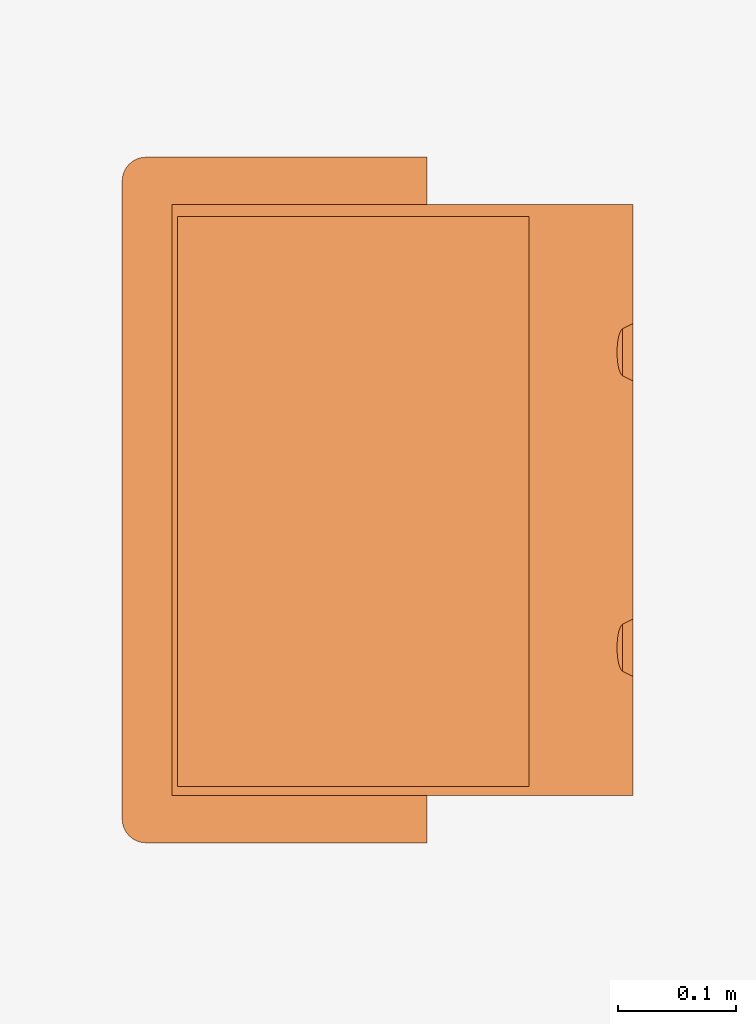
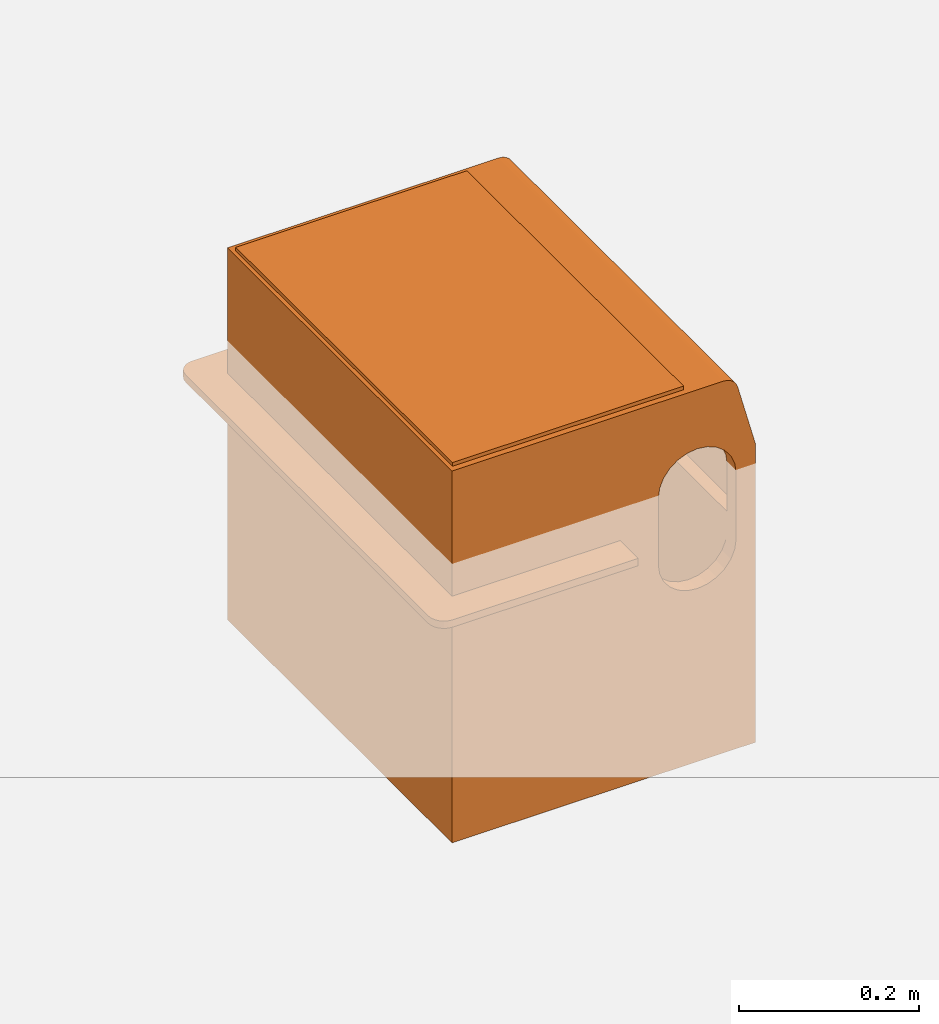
# One storey, part 2 of 2: 1 proxy.
"""IFC2X3 building model written with IfcOpenShell, lengths in millimetres."""

from ifc_helpers import new_model, entity, si_unit, converted_unit, direction, frame, origin, place, context, subcontext, project, spatial, faceted_brep, source, transform, mapped, material, material_list, element, save


model = new_model("IFC2X3")

# Units and contexts
model_context = context("Model", 3, precision=1e-06, world=origin(), true_north=direction((2.0, 6.12303176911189e-17, 1.0)))
context_of_model = context(None, 3, precision=1e-06, world=origin(), true_north=direction((2.0, 6.12303176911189e-17, 1.0)))
body_context = subcontext(model_context, "Body", "Model", "MODEL_VIEW")
ifc_project = project(units=[si_unit("LENGTHUNIT", "METRE", prefix="MILLI"), si_unit("AREAUNIT", "SQUARE_METRE", prefix="MILLI"), si_unit("VOLUMEUNIT", "CUBIC_METRE", prefix="MILLI"), converted_unit("PLANEANGLEUNIT", "DEGREE", entity("IfcRatioMeasure", 0.0174532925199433), si_unit("PLANEANGLEUNIT", "RADIAN"), dimensions=[0, 0, 0, 0, 0, 0, 0]), si_unit("TIMEUNIT", "SECOND")], contexts=[model_context, context_of_model])

# Site, building, storey
site_placement = place(None, origin())
site = spatial("IfcSite", under=ifc_project, at=site_placement, Name="Default", CompositionType="ELEMENT")
building_placement = place(site_placement, origin())
building = spatial("IfcBuilding", under=site, at=building_placement, CompositionType="ELEMENT")
storey_placement = place(building_placement, origin())
storey = spatial("IfcBuildingStorey", under=building, at=storey_placement, Name="Level 1", CompositionType="ELEMENT", Elevation=0.0)

# Proxy
ifc_material_1 = material(Name="Cast Iron")
ifc_material_2 = material(Name="ACO Polmer Concrete.")
ifc_material_3 = material(Name="Gully Colour")
ifc_material_list = material_list([ifc_material_1, ifc_material_2, ifc_material_3])
shared_shape = source(origin(), body_context, "Body", "Brep", [
    faceted_brep([(-195.0, 0.0, -55.0), (-217.0, 40.0, -55.0), (21.0, 40.0, -55.0), (21.0, 0.0, -55.0), (-227.0, 37.3205080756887, -55.0), (-222.176380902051, 39.3185165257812, -55.0), (-231.142135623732, 34.1421356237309, -55.0), (-237.0, 20.0, -55.0), (-236.318516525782, 25.1763809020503, -55.0), (-234.320508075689, 30.0, -55.0), (-237.0, -520.0, -55.0), (-195.0, -500.0, -55.0), (21.0, -500.0, -55.0), (21.0, -540.0, -55.0), (-217.0, -540.0, -55.0), (-222.17638090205, -539.318516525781, -55.0), (-227.0, -537.320508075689, -55.0), (-231.142135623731, -534.142135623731, -55.0), (-236.318516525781, -525.176380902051, -55.0), (-234.320508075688, -530.0, -55.0), (-195.0, -500.0, -45.0155898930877), (-217.0, -540.0, -45.0155898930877), (21.0, -540.0, -45.0155898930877), (21.0, -500.0, -45.0155898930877), (-227.0, -537.320508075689, -45.0155898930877), (-222.17638090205, -539.318516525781, -45.0155898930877), (-231.142135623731, -534.142135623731, -45.0155898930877), (-237.0, -520.0, -45.0155898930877), (-236.318516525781, -525.176380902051, -45.0155898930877), (-234.320508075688, -530.0, -45.0155898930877), (-237.0, 20.0, -45.0155898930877), (-195.0, 0.0, -45.0155898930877), (21.0, 0.0, -45.0155898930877), (21.0, 40.0, -45.0155898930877), (-217.0, 40.0, -45.0155898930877), (-222.176380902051, 39.3185165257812, -45.0155898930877), (-227.0, 37.3205080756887, -45.0155898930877), (-231.142135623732, 34.1421356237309, -45.0155898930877), (-236.318516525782, 25.1763809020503, -45.0155898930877), (-234.320508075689, 30.0, -45.0155898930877)], [[[0, 1, 2, 3]], [[4, 5, 1, 6]], [[1, 0, 7, 8]], [[9, 6, 1, 8]], [[10, 7, 0, 11]], [[11, 12, 13]], [[14, 10, 11, 13]], [[14, 15, 16, 17]], [[10, 14, 18]], [[14, 17, 19, 18]], [[20, 21, 22, 23]], [[24, 25, 21, 26]], [[21, 20, 27, 28]], [[29, 26, 21, 28]], [[30, 27, 20, 31]], [[31, 32, 33]], [[34, 30, 31, 33]], [[34, 35, 36, 37]], [[30, 34, 38]], [[34, 37, 39, 38]], [[13, 22, 21, 14]], [[10, 27, 30, 7]], [[1, 34, 33, 2]], [[33, 32, 3, 2]], [[3, 32, 31, 0]], [[31, 20, 11, 0]], [[11, 20, 23, 12]], [[23, 22, 13, 12]], [[10, 18, 28, 27]], [[18, 19, 29, 28]], [[26, 29, 19, 17]], [[17, 16, 24, 26]], [[16, 15, 25, 24]], [[21, 25, 15, 14]], [[1, 5, 35, 34]], [[5, 4, 36, 35]], [[37, 36, 4, 6]], [[6, 9, 39, 37]], [[9, 8, 38, 39]], [[30, 38, 8, 7]]]),
    faceted_brep([(107.0, -10.0, 130.0), (-190.0, -10.0, 130.0), (-190.0, -492.194385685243, 130.0), (107.0, -492.194385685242, 130.0), (107.0, -492.194385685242, 125.0), (-190.0, -492.194385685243, 125.0), (-190.0, -10.0, 125.0), (107.0, -10.0, 125.0)], [[[0, 1, 2, 3]], [[4, 5, 6, 7]], [[2, 1, 6, 5]], [[4, 3, 2, 5]], [[0, 3, 4, 7]], [[6, 1, 0, 7]]]),
    faceted_brep([(143.500000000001, -480.0, -395.0), (130.0, -380.913437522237, -395.0), (130.0, -119.086562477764, -395.0), (143.499999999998, -20.0, -395.0), (90.7286561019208, -406.596560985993, -395.0), (46.6095382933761, -422.576696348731, -395.0), (0.0, -428.0, -395.0), (-143.499999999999, -480.0, -395.0), (90.7286561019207, -93.4034390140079, -395.0), (46.6095382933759, -77.4233036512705, -395.0), (0.0, -72.0, -395.0), (-143.500000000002, -20.0, -395.0), (-46.6095382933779, -422.576696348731, -395.0), (-90.7286561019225, -406.596560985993, -395.0), (-130.0, -380.913437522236, -395.0), (-46.6095382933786, -77.4233036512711, -395.0), (-90.7286561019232, -93.4034390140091, -395.0), (-130.0, -119.086562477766, -395.0), (-143.499999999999, -480.0, -374.697410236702), (-90.7286561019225, -406.596560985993, -374.697410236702), (-130.0, -380.913437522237, -374.697410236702), (-46.6095382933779, -422.576696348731, -374.697410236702), (0.0, -428.0, -374.697410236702), (143.500000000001, -480.0, -374.697410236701), (-143.500000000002, -20.0, -374.697410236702), (-130.0, -119.086562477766, -374.697410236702), (-90.7286561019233, -93.4034390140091, -374.697410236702), (-46.6095382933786, -77.4233036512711, -374.697410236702), (0.0, -72.0, -374.697410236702), (90.7286561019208, -406.596560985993, -374.697410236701), (46.6095382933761, -422.576696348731, -374.697410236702), (130.0, -119.086562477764, -374.697410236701), (130.0, -380.913437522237, -374.697410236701), (143.499999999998, -20.0, -374.697410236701), (46.6095382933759, -77.4233036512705, -374.697410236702), (90.7286561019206, -93.4034390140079, -374.697410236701)], [[[0, 1, 2, 3]], [[1, 0, 4]], [[5, 4, 0]], [[6, 5, 0, 7]], [[3, 2, 8]], [[3, 9, 10, 11]], [[8, 9, 3]], [[12, 6, 7]], [[13, 7, 14]], [[7, 13, 12]], [[15, 16, 11]], [[17, 14, 7, 11]], [[17, 11, 16]], [[15, 11, 10]], [[18, 19, 20]], [[19, 18, 21]], [[22, 21, 18, 23]], [[24, 25, 26]], [[25, 24, 18, 20]], [[26, 27, 24]], [[24, 27, 28]], [[29, 30, 23]], [[31, 32, 23, 33]], [[23, 32, 29]], [[30, 22, 23]], [[28, 34, 33, 24]], [[35, 31, 33]], [[35, 33, 34]], [[0, 3, 33, 23]], [[3, 11, 24, 33]], [[11, 7, 18, 24]], [[7, 0, 23, 18]], [[8, 2, 31, 35]], [[9, 8, 35, 34]], [[34, 28, 10, 9]], [[16, 15, 27, 26]], [[17, 16, 26, 25]], [[28, 27, 15, 10]], [[20, 14, 17, 25]], [[13, 14, 20, 19]], [[12, 13, 19, 21]], [[21, 22, 6, 12]], [[4, 5, 30, 29]], [[32, 1, 4, 29]], [[22, 30, 5, 6]], [[31, 2, 1, 32]]]),
    faceted_brep([(70.0, -480.0, -95.0), (70.0, -480.0, -70.0), (70.0, -500.0, -70.0), (70.0, -500.0, -95.0), (71.703708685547, -480.0, -107.940952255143), (71.7037086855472, -500.0, -107.940952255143), (76.6987298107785, -480.0, -120.0), (76.6987298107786, -500.0, -120.0), (95.0, -480.0, -138.301270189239), (84.6446609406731, -480.0, -130.355339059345), (84.6446609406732, -500.0, -130.355339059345), (95.0, -500.0, -138.301270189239), (107.059047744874, -480.0, -143.29629131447), (107.059047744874, -500.0, -143.29629131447), (120.0, -500.0, -145.0), (120.0, -480.0, -145.0), (145.0, -480.0, -138.301270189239), (132.940952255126, -480.0, -143.296291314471), (132.940952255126, -500.0, -143.296291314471), (145.0, -500.0, -138.301270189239), (155.355339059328, -480.0, -130.355339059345), (155.355339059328, -500.0, -130.355339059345), (168.296291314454, -480.0, -107.940952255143), (163.301270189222, -480.0, -120.0), (163.301270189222, -500.0, -120.0), (168.296291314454, -500.0, -107.940952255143), (170.0, -480.0, -95.0), (170.0, -500.0, -95.0), (195.0, 0.0, -380.0), (155.355339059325, 0.0, -130.355339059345), (163.30127018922, 0.0, -120.0), (145.0, 0.0, -138.301270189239), (132.940952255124, 0.0, -143.296291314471), (120.0, 0.0, -145.0), (170.0, 0.0, -70.0), (195.0, 0.0, -70.0), (170.0, 0.0, -95.0), (168.296291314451, 0.0, -107.940952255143), (107.059047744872, 0.0, -143.29629131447), (-195.0, 0.0, -380.0), (84.6446609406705, 0.0, -130.355339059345), (95.0, 0.0, -138.301270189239), (76.6987298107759, 0.0, -120.0), (-195.0, 0.0, -70.0), (71.7037086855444, 0.0, -107.940952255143), (70.0, 0.0, -70.0), (70.0, 0.0, -95.0), (-195.0, -500.0, -380.0), (195.0, -500.0, -380.0), (-195.0, -500.0, -70.0), (195.0, -500.0, -70.0), (170.0, -500.0, -70.0), (130.0, -20.0, -380.0), (-130.0, -20.0, -380.0), (130.0, -480.0, -380.0), (-130.0, -480.0, -380.0), (-170.0, -20.0, -70.0), (70.0, -20.0, -70.0), (-170.0, -480.0, -70.0), (70.0, -20.0, -95.0), (71.7037086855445, -20.0, -107.940952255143), (76.698729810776, -20.0, -120.0), (95.0, -20.0, -138.301270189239), (107.059047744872, -20.0, -143.29629131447), (84.6446609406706, -20.0, -130.355339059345), (120.0, -20.0, -145.0), (145.0, -20.0, -138.301270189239), (155.355339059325, -20.0, -130.355339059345), (132.940952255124, -20.0, -143.296291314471), (168.296291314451, -20.0, -107.940952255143), (170.0, -20.0, -95.0), (163.30127018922, -20.0, -120.0), (170.0, -20.0, -374.697410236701), (170.0, -480.0, -374.697410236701), (130.0, -480.0, -374.697410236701), (-130.0, -480.0, -374.697410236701), (-170.0, -480.0, -374.697410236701), (-130.0, -20.0, -374.697410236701), (130.0, -20.0, -374.697410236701), (-170.0, -20.0, -374.697410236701)], [[[0, 1, 2, 3]], [[4, 0, 3, 5]], [[6, 4, 5, 7]], [[8, 9, 10, 11]], [[9, 6, 7, 10]], [[12, 8, 11, 13]], [[13, 14, 15, 12]], [[16, 17, 18, 19]], [[20, 16, 19, 21]], [[22, 23, 24, 25]], [[23, 20, 21, 24]], [[26, 22, 25, 27]], [[14, 18, 17, 15]], [[28, 29, 30]], [[29, 28, 31]], [[32, 31, 28]], [[28, 33, 32]], [[34, 35, 36]], [[37, 36, 35]], [[30, 37, 35, 28]], [[33, 28, 38]], [[39, 40, 41, 28]], [[41, 38, 28]], [[42, 40, 39, 43]], [[44, 42, 43]], [[45, 46, 43]], [[43, 46, 44]], [[47, 10, 7]], [[11, 10, 47, 48]], [[48, 13, 11]], [[49, 3, 2]], [[3, 49, 5]], [[7, 5, 49, 47]], [[18, 14, 48]], [[19, 48, 21]], [[48, 19, 18]], [[21, 48, 24]], [[14, 13, 48]], [[50, 25, 24, 48]], [[27, 50, 51]], [[50, 27, 25]], [[28, 52, 53, 39]], [[54, 52, 28, 48]], [[39, 53, 55, 47]], [[55, 54, 48, 47]], [[43, 39, 47, 49]], [[45, 43, 56, 57]], [[58, 56, 43, 49]], [[58, 49, 2, 1]], [[28, 35, 50, 48]], [[46, 45, 57, 59]], [[42, 44, 60, 61]], [[44, 46, 59, 60]], [[38, 41, 62, 63]], [[41, 40, 64, 62]], [[40, 42, 61, 64]], [[63, 65, 33, 38]], [[29, 31, 66, 67]], [[31, 32, 68, 66]], [[36, 37, 69, 70]], [[37, 30, 71, 69]], [[30, 29, 67, 71]], [[65, 68, 32, 33]], [[70, 72, 73, 26]], [[34, 36, 70, 26]], [[26, 27, 51, 34]], [[35, 34, 51, 50]], [[74, 15, 17, 73]], [[74, 54, 75, 8]], [[17, 16, 73]], [[15, 74, 12]], [[54, 55, 75]], [[75, 76, 58, 6]], [[74, 8, 12]], [[8, 75, 9]], [[73, 16, 20]], [[73, 23, 22]], [[73, 22, 26]], [[23, 73, 20]], [[58, 4, 6]], [[58, 1, 0]], [[4, 58, 0]], [[9, 75, 6]], [[72, 70, 69]], [[72, 71, 67]], [[71, 72, 69]], [[59, 57, 56]], [[61, 60, 56, 77]], [[56, 60, 59]], [[77, 64, 61]], [[72, 66, 68, 78]], [[52, 78, 77, 53]], [[72, 67, 66]], [[65, 78, 68]], [[63, 78, 65]], [[78, 63, 62, 77]], [[77, 56, 79]], [[62, 64, 77]], [[56, 58, 76, 79]], [[76, 75, 77, 79]], [[77, 75, 55, 53]], [[52, 54, 74, 78]], [[78, 74, 73, 72]]]),
    faceted_brep([(170.0, -480.0, -5.0), (170.0, -480.0, -70.0), (170.0, -500.0, -70.0), (170.0, -500.0, -5.0), (168.296291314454, -480.0, 7.94095225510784), (168.296291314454, -500.0, 7.94095225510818), (163.301270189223, -480.0, 20.0), (163.301270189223, -500.0, 20.0), (145.0, -480.0, 38.3012701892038), (155.355339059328, -480.0, 30.3553390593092), (155.355339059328, -500.0, 30.3553390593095), (145.0, -500.0, 38.3012701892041), (132.940952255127, -480.0, 43.2962913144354), (132.940952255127, -500.0, 43.2962913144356), (120.0, -500.0, 45.0), (120.0, -480.0, 45.0), (95.0, -480.0, 38.3012701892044), (107.059047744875, -480.0, 43.2962913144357), (107.059047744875, -500.0, 43.2962913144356), (95.0, -500.0, 38.3012701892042), (84.6446609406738, -480.0, 30.35533905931), (84.6446609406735, -500.0, 30.3553390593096), (71.7037086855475, -480.0, 7.94095225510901), (76.6987298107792, -480.0, 20.0), (76.6987298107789, -500.0, 20.0), (71.7037086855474, -500.0, 7.94095225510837), (70.0, -480.0, -5.0), (70.0, -500.0, -5.0), (70.0, -480.0, -70.0), (70.0, -500.0, -70.0), (170.0, 0.0, -5.0), (195.0, 0.0, 25.0), (195.0, 0.0, -70.0), (170.0, 0.0, -70.0), (168.296291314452, 0.0, 7.9409522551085), (163.30127018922, 0.0, 20.0), (155.355339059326, 0.0, 30.3553390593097), (167.060896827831, 0.0, 119.435028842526), (170.08035065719, 0.0, 115.499999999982), (171.978458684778, 0.0, 110.91756185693), (163.125867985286, 0.0, 122.454482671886), (153.625867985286, 0.0, 125.0), (158.543429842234, 0.0, 124.352590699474), (132.940952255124, 0.0, 43.2962913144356), (145.0, 0.0, 38.3012701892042), (-195.0, 0.0, 125.0), (76.6987298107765, 0.0, 20.0), (71.7037086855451, 0.0, 7.94095225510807), (-195.0, 0.0, -45.0155898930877), (70.0, 0.0, -70.0), (-195.0, 0.0, -55.0), (70.0, 0.0, -5.0), (-195.0, 0.0, -70.0), (107.059047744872, 0.0, 43.2962913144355), (120.0, 0.0, 45.0), (95.0, 0.0, 38.301270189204), (84.644660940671, 0.0, 30.3553390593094), (-195.0, -500.0, -55.0), (-195.0, -500.0, -70.0), (-195.0, -500.0, -45.0155898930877), (-195.0, -500.0, 125.0), (153.625867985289, -500.0, 125.0), (171.978458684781, -500.0, 110.91756185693), (195.0, -500.0, 25.0), (195.0, -500.0, -70.0), (158.543429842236, -500.0, 124.352590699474), (163.125867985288, -500.0, 122.454482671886), (170.080350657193, -500.0, 115.499999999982), (167.060896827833, -500.0, 119.435028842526), (186.324086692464, -20.0, -70.0), (170.0, -20.0, -70.0), (186.324086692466, -480.0, -70.0), (70.0, -20.0, -70.0), (-185.0, -20.0, -70.0), (-185.0, -480.0, -70.0), (153.625867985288, -347.800114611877, 125.0), (195.0, -100.682801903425, 25.0), (195.0, -100.0, 20.0335195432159), (195.0, -100.851854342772, 13.5630434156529), (195.0, -103.349364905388, 7.53351954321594), (195.0, -150.0, 20.0335195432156), (195.0, -149.317198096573, 25.0), (195.0, -350.682801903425, 25.0), (195.0, -350.0, 20.0335195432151), (195.0, -149.148145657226, 13.5630434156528), (195.0, -350.851854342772, 13.5630434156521), (195.0, -107.322330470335, 2.35585001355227), (195.0, -112.499999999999, -1.61711555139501), (195.0, -118.529523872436, -4.11462611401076), (195.0, -125.0, -4.96648045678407), (195.0, -142.677669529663, 2.35585001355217), (195.0, -146.65063509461, 7.53351954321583), (195.0, -357.322330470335, 2.35585001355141), (195.0, -362.499999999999, -1.61711555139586), (195.0, -131.470476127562, -4.1146261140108), (195.0, -137.499999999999, -1.61711555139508), (195.0, -368.529523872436, -4.11462611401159), (195.0, -353.349364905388, 7.53351954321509), (195.0, -399.317198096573, 25.0), (195.0, -400.0, 20.0335195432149), (195.0, -399.148145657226, 13.5630434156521), (195.0, -396.65063509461, 7.5335195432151), (195.0, -387.499999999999, -1.61711555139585), (195.0, -392.677669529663, 2.35585001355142), (195.0, -375.0, -4.96648045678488), (195.0, -381.470476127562, -4.11462611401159), (170.0, -20.0, -5.0), (168.296291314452, -20.0, 7.94095225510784), (163.301270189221, -20.0, 20.0), (155.355339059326, -20.0, 30.3553390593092), (145.0, -20.0, 38.3012701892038), (132.940952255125, -20.0, 43.2962913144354), (120.0, -20.0, 45.0), (107.059047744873, -20.0, 43.2962913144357), (95.0, -20.0, 38.3012701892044), (84.6446609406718, -20.0, 30.3553390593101), (76.6987298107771, -20.0, 20.0), (71.7037086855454, -20.0, 7.94095225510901), (70.0, -20.0, -5.0), (186.324086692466, -480.0, 20.0), (164.177796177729, -480.0, 102.651081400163), (-185.0, -480.0, 116.733519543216), (159.260234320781, -480.0, 111.168548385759), (162.279688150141, -480.0, 107.233519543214), (155.325205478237, -480.0, 114.188002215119), (145.825205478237, -480.0, 116.733519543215), (150.742767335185, -480.0, 116.086110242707), (150.742767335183, -20.0, 116.086110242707), (145.825205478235, -20.0, 116.733519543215), (164.177796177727, -20.0, 102.651081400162), (155.325205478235, -20.0, 114.188002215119), (162.279688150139, -20.0, 107.233519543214), (159.260234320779, -20.0, 111.168548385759), (-185.0, -20.0, 116.733519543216), (186.324086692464, -20.0, 20.0), (145.825205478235, -175.60028072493, 116.733519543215), (186.324086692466, -387.490322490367, -1.62269998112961), (186.324086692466, -381.465079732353, -4.11607142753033), (186.324086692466, -375.0, -4.96648045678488), (186.324086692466, -392.665814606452, 2.34400303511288), (186.324086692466, -368.534920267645, -4.11607142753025), (186.324086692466, -362.509677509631, -1.62269998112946), (186.324086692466, -357.334185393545, 2.34400303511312), (186.324086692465, -137.490324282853, -1.62269894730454), (186.324086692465, -131.465080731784, -4.11607115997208), (186.324086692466, -399.140901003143, 13.5360662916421), (186.324086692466, -396.6394532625, 7.51417201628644), (186.324086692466, -399.999977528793, 20.0), (186.324086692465, -149.140902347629, 13.5360712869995), (186.324086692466, -350.859098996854, 13.5360662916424), (186.324086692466, -350.000022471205, 20.0), (186.324086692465, -149.999977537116, 20.0000062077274), (186.324086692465, -146.639455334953, 7.51417559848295), (186.324086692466, -353.360546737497, 7.51417201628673), (186.324086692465, -142.665816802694, 2.34400522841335), (186.324086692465, -118.534919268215, -4.11607115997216), (186.324086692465, -125.0, -4.96648045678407), (186.324086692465, -112.509675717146, -1.6226989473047), (186.324086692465, -107.334183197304, 2.34400522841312), (186.324086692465, -103.360544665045, 7.51417559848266), (186.324086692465, -100.859097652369, 13.5360712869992), (186.324086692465, -99.9953916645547, 20.0), (181.74592304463, -120.26482351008, 74.4648886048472), (182.194351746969, -115.798903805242, 72.7913299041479), (181.593558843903, -125.0, 75.0335195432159), (182.913345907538, -111.856186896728, 70.1080071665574), (183.862021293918, -108.66086786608, 66.567502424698), (181.74592304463, -129.735176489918, 74.4648886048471), (181.745923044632, -370.26482351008, 74.4648886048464), (182.913345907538, -138.143813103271, 70.108007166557), (182.194351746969, -134.201096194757, 72.7913299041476), (182.19435174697, -365.798903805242, 72.7913299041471), (182.913345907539, -361.856186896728, 70.1080071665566), (186.222644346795, -105.186375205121, 57.7575372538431), (184.986433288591, -106.394642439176, 62.3711397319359), (186.222644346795, -144.813624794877, 57.7575372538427), (184.986433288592, -143.605357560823, 62.3711397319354), (184.986433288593, -356.394642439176, 62.3711397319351), (186.222644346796, -355.186375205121, 57.7575372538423), (183.862021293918, -141.339132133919, 66.5675024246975), (183.862021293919, -358.66086786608, 66.5675024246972), (181.593558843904, -375.0, 75.0335195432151), (181.745923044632, -379.735176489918, 74.4648886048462), (182.19435174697, -384.201096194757, 72.7913299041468), (182.91334590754, -388.143813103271, 70.1080071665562), (183.862021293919, -391.339132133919, 66.5675024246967), (171.978458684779, -152.20011621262, 110.91756185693), (171.97845868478, -304.399889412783, 110.91756185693), (184.986433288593, -393.605357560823, 62.3711397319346), (186.222644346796, -394.813624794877, 57.7575372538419), (176.206985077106, -394.813624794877, 57.757537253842), (174.970774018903, -393.605357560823, 62.3711397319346), (176.206985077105, -144.813624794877, 57.7575372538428), (176.206985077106, -355.186375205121, 57.7575372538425), (174.970774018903, -356.394642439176, 62.3711397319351), (173.846362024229, -358.66086786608, 66.5675024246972), (173.846362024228, -141.339132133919, 66.5675024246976), (174.970774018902, -143.605357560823, 62.3711397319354), (172.897686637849, -388.143813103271, 70.1080071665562), (173.846362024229, -391.339132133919, 66.5675024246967), (171.730263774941, -379.735176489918, 74.4648886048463), (172.17869247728, -384.201096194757, 72.7913299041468), (172.897686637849, -361.856186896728, 70.1080071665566), (172.17869247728, -365.798903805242, 72.7913299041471), (172.178692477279, -134.201096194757, 72.7913299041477), (172.897686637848, -138.143813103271, 70.108007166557), (171.730263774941, -370.26482351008, 74.4648886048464), (171.577899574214, -375.0, 75.0335195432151), (171.73026377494, -129.735176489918, 74.4648886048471), (176.206985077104, -105.186375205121, 57.7575372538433), (174.970774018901, -106.394642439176, 62.3711397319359), (171.577899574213, -125.0, 75.0335195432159), (164.177796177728, -172.199873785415, 102.651081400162), (173.846362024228, -108.66086786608, 66.567502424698), (172.897686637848, -111.856186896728, 70.1080071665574), (172.178692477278, -115.798903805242, 72.7913299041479), (171.73026377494, -120.26482351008, 74.4648886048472), (164.177796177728, -324.399745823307, 102.651081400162), (153.096190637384, -336.278614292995, 115.287230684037), (157.391672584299, -374.573795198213, 112.807233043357), (162.808687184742, -248.299812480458, 106.251814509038), (160.898918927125, -163.721386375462, 109.299986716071), (160.89891888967, -336.278618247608, 109.299986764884), (157.39167262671, -250.0, 112.807233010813), (157.391672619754, -125.42620528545, 112.80723301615), (162.897138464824, -123.379587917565, 106.07313009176), (153.096190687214, -163.721384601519, 115.287230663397), (162.910928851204, -376.232668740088, 106.044840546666), (149.657597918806, -251.700195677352, 116.343000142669), (149.46210924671, -376.620415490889, 116.382190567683), (145.825205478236, -327.800140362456, 116.733519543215), (149.431214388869, -123.767333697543, 116.388189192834), (160.89685323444, -151.423673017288, 123.553711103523), (157.024911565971, -135.85009765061, 124.693488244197), (157.644410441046, -261.028899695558, 124.570172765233), (165.192335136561, -250.0, 121.073713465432), (165.1923351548, -116.192108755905, 121.073713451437), (161.914008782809, -250.0, 123.096979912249), (165.192335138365, -383.80789127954, 121.073713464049), (168.699581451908, -348.57632636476, 117.566467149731), (170.802653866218, -364.149901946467, 114.121454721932), (170.523202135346, -238.971100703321, 114.687928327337), (153.625867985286, -76.0999426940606, 125.0), (160.896853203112, -348.576326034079, 123.5537111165), (171.97845868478, -423.900284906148, 110.91756185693), (167.995153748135, -250.0, 118.430753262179), (157.325857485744, -395.124364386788, 124.636257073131), (153.625867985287, -195.600229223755, 125.0), (168.699581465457, -151.42367418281, 117.566467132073), (170.669482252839, -104.875635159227, 114.397333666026)], [[[0, 1, 2, 3]], [[4, 0, 3, 5]], [[6, 4, 5, 7]], [[8, 9, 10, 11]], [[9, 6, 7, 10]], [[12, 8, 11, 13]], [[13, 14, 15, 12]], [[16, 17, 18, 19]], [[20, 16, 19, 21]], [[22, 23, 24, 25]], [[23, 20, 21, 24]], [[26, 22, 25, 27]], [[14, 18, 17, 15]], [[28, 26, 27, 29]], [[30, 31, 32, 33]], [[34, 35, 31]], [[30, 34, 31]], [[31, 35, 36]], [[37, 38, 39, 40]], [[41, 42, 39, 43]], [[42, 40, 39]], [[36, 44, 39, 31]], [[45, 46, 47, 48]], [[49, 50, 48, 51]], [[51, 48, 47]], [[50, 49, 52]], [[53, 41, 54]], [[44, 43, 39]], [[55, 56, 45]], [[41, 53, 55, 45]], [[56, 46, 45]], [[54, 41, 43]], [[57, 58, 29, 59]], [[29, 27, 59]], [[59, 27, 25, 60]], [[60, 24, 21]], [[24, 60, 25]], [[60, 21, 19, 61]], [[61, 18, 14]], [[61, 19, 18]], [[61, 14, 13, 62]], [[7, 5, 63]], [[10, 7, 63, 62]], [[2, 64, 3]], [[63, 5, 3, 64]], [[65, 61, 62, 66]], [[62, 13, 11]], [[62, 67, 68, 66]], [[11, 10, 62]], [[33, 32, 69, 70]], [[69, 32, 64, 71]], [[71, 64, 2, 1]], [[49, 72, 73, 52]], [[52, 73, 74, 58]], [[74, 28, 29, 58]], [[50, 52, 58, 57]], [[60, 45, 48, 59]], [[48, 50, 57, 59]], [[61, 75, 45, 60]], [[31, 76, 77]], [[77, 78, 31]], [[31, 78, 79, 32]], [[80, 81, 82, 83]], [[84, 80, 83, 85]], [[86, 87, 32]], [[32, 88, 89]], [[88, 32, 87]], [[86, 32, 79]], [[90, 91, 92, 93]], [[94, 64, 32, 89]], [[95, 90, 93, 96]], [[94, 95, 96, 64]], [[91, 84, 97, 92]], [[98, 63, 99]], [[100, 99, 63]], [[101, 100, 63, 64]], [[102, 103, 64]], [[104, 105, 64]], [[64, 105, 102]], [[104, 64, 96]], [[103, 101, 64]], [[85, 97, 84]], [[106, 30, 33, 70]], [[34, 30, 106, 107]], [[35, 34, 107, 108]], [[44, 36, 109, 110]], [[36, 35, 108, 109]], [[43, 44, 110, 111]], [[111, 112, 54, 43]], [[55, 53, 113, 114]], [[56, 55, 114, 115]], [[47, 46, 116, 117]], [[46, 56, 115, 116]], [[51, 47, 117, 118]], [[112, 113, 53, 54]], [[49, 51, 118, 72]], [[0, 4, 119, 71]], [[0, 71, 1]], [[6, 9, 119]], [[9, 8, 120, 119]], [[4, 6, 119]], [[74, 26, 28]], [[74, 121, 22, 26]], [[122, 123, 120, 124]], [[120, 125, 126, 124]], [[125, 120, 12, 15]], [[20, 23, 121, 125]], [[17, 125, 15]], [[16, 20, 125]], [[125, 17, 16]], [[22, 121, 23]], [[8, 12, 120]], [[127, 128, 129, 130]], [[129, 131, 132, 130]], [[111, 129, 128, 112]], [[115, 114, 128, 133]], [[114, 113, 128]], [[112, 128, 113]], [[116, 115, 133]], [[111, 110, 129]], [[109, 108, 134, 129]], [[129, 110, 109]], [[107, 134, 108]], [[134, 107, 106, 69]], [[69, 106, 70]], [[117, 133, 73, 118]], [[118, 73, 72]], [[116, 133, 117]], [[128, 135, 121, 133]], [[133, 121, 74, 73]], [[136, 137, 71]], [[138, 71, 137]], [[139, 136, 71]], [[71, 138, 140]], [[141, 142, 143, 144]], [[140, 141, 144, 71]], [[119, 145, 146, 71]], [[145, 119, 147]], [[148, 149, 150, 151]], [[152, 153, 149, 148]], [[146, 139, 71]], [[142, 153, 154, 143]], [[155, 69, 156]], [[144, 156, 69, 71]], [[69, 155, 157]], [[157, 158, 69]], [[159, 160, 134, 69]], [[160, 161, 134]], [[159, 69, 158]], [[153, 152, 154]], [[83, 150, 85]], [[85, 149, 97]], [[93, 92, 142]], [[153, 92, 97]], [[96, 93, 141]], [[149, 153, 97]], [[85, 150, 149]], [[96, 141, 140]], [[141, 93, 142]], [[92, 153, 142]], [[140, 138, 104]], [[104, 96, 140]], [[104, 137, 105]], [[105, 136, 102]], [[101, 103, 146]], [[139, 103, 102]], [[100, 101, 145]], [[136, 139, 102]], [[105, 137, 136]], [[100, 145, 147]], [[145, 101, 146]], [[103, 139, 146]], [[100, 147, 99]], [[138, 137, 104]], [[39, 162, 163]], [[162, 39, 164]], [[163, 165, 39]], [[39, 165, 166]], [[167, 164, 39, 168]], [[169, 170, 171, 172]], [[170, 167, 168, 171]], [[31, 39, 173, 76]], [[39, 174, 173]], [[175, 176, 177, 178]], [[82, 81, 175, 178]], [[176, 179, 180, 177]], [[39, 166, 174]], [[179, 169, 172, 180]], [[181, 168, 62]], [[182, 62, 183]], [[62, 182, 181]], [[184, 183, 62]], [[62, 185, 184]], [[168, 39, 186, 187]], [[185, 62, 188]], [[63, 98, 189, 62]], [[189, 188, 62]], [[190, 147, 119, 120]], [[191, 190, 120]], [[192, 150, 193]], [[194, 195, 196, 197]], [[193, 194, 197, 192]], [[120, 198, 199]], [[200, 201, 120]], [[198, 120, 201]], [[191, 120, 199]], [[202, 203, 204, 205]], [[206, 207, 120, 208]], [[120, 207, 200]], [[203, 206, 208, 204]], [[195, 202, 205, 196]], [[150, 192, 151]], [[209, 134, 161]], [[209, 210, 129, 134]], [[129, 211, 208, 212]], [[129, 213, 214]], [[129, 215, 216]], [[214, 215, 129]], [[211, 129, 216]], [[129, 210, 213]], [[208, 120, 217, 212]], [[124, 218, 219]], [[212, 217, 220]], [[221, 222, 223, 224]], [[223, 222, 219]], [[131, 129, 225]], [[221, 132, 131]], [[226, 127, 130]], [[120, 227, 217]], [[224, 130, 132]], [[222, 123, 122]], [[226, 224, 223, 218]], [[222, 227, 123]], [[228, 229, 230]], [[128, 231, 135]], [[221, 224, 132]], [[226, 231, 127]], [[131, 225, 221]], [[218, 126, 229]], [[229, 126, 125]], [[219, 122, 124]], [[220, 225, 212]], [[218, 124, 126]], [[230, 135, 228]], [[130, 224, 226]], [[122, 219, 222]], [[223, 219, 218]], [[220, 222, 221]], [[222, 220, 227]], [[228, 226, 218]], [[226, 228, 231]], [[127, 231, 128]], [[135, 231, 228]], [[123, 227, 120]], [[217, 227, 220]], [[221, 225, 220]], [[212, 225, 129]], [[218, 229, 228]], [[230, 229, 125]], [[232, 233, 234]], [[235, 236, 237, 238]], [[239, 240, 241]], [[232, 237, 236]], [[68, 67, 239]], [[42, 41, 242]], [[40, 42, 232]], [[243, 65, 66]], [[66, 68, 238]], [[240, 244, 187]], [[245, 238, 239]], [[75, 246, 234]], [[233, 242, 247]], [[67, 62, 244]], [[238, 243, 66]], [[37, 248, 38]], [[61, 65, 246]], [[236, 248, 37]], [[248, 249, 38]], [[37, 40, 236]], [[235, 238, 245, 236]], [[186, 249, 241]], [[246, 65, 243]], [[239, 238, 68]], [[38, 249, 39]], [[232, 236, 40]], [[234, 233, 247]], [[242, 233, 42]], [[42, 233, 232]], [[75, 234, 247]], [[234, 243, 237]], [[241, 240, 187]], [[244, 240, 67]], [[67, 240, 239]], [[186, 241, 187]], [[241, 248, 245]], [[241, 245, 239]], [[236, 245, 248]], [[234, 237, 232]], [[238, 237, 243]], [[234, 246, 243]], [[61, 246, 75]], [[241, 249, 248]], [[39, 249, 186]], [[98, 190, 189]], [[98, 99, 147]], [[190, 98, 147]], [[185, 188, 191, 199]], [[188, 189, 190, 191]], [[182, 183, 201, 200]], [[183, 184, 198, 201]], [[184, 185, 199, 198]], [[200, 207, 181, 182]], [[202, 172, 171, 203]], [[203, 171, 168, 206]], [[193, 178, 177, 194]], [[194, 177, 180, 195]], [[195, 180, 172, 202]], [[206, 168, 181, 207]], [[82, 178, 193]], [[83, 82, 150]], [[193, 150, 82]], [[81, 192, 175]], [[81, 80, 151]], [[192, 81, 151]], [[179, 176, 197, 196]], [[176, 175, 192, 197]], [[167, 170, 204, 208]], [[170, 169, 205, 204]], [[169, 179, 196, 205]], [[208, 211, 164, 167]], [[214, 165, 163, 215]], [[215, 163, 162, 216]], [[209, 173, 174, 210]], [[210, 174, 166, 213]], [[213, 166, 165, 214]], [[216, 162, 164, 211]], [[76, 173, 209, 161]], [[77, 76, 161]], [[77, 161, 78]], [[78, 160, 79]], [[87, 86, 158]], [[159, 86, 79]], [[88, 87, 157]], [[160, 159, 79]], [[78, 161, 160]], [[88, 157, 155]], [[157, 87, 158]], [[86, 159, 158]], [[155, 156, 89]], [[89, 88, 155]], [[89, 144, 94]], [[94, 143, 95]], [[91, 90, 152]], [[154, 90, 95]], [[84, 91, 148]], [[143, 154, 95]], [[94, 144, 143]], [[84, 148, 151]], [[148, 91, 152]], [[90, 154, 152]], [[84, 151, 80]], [[156, 144, 89]], [[45, 75, 247, 242]], [[45, 242, 41]], [[121, 135, 230, 125]], [[168, 187, 244, 62]]]),
])
proxy_placement = place(storey_placement, frame((-12633.4949662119, 30.3423193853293, 0.0)))
element("IfcBuildingElementProxy", 1, at=proxy_placement, inside=storey, material=ifc_material_list, Name="Civil-Drainage-Channel-ACO-KerbDrain-HB Gully units:4928 - Top assembly KDG:4928 - Top assembly KDG", ObjectType="4928 - Top assembly KDG", CompositionType="ELEMENT", context=body_context, shape_type="MappedRepresentation", body=[
    mapped(shared_shape, transform((0.0, 0.0, 0.0), scale=1.0)),
])

save(model, "model.ifc")
